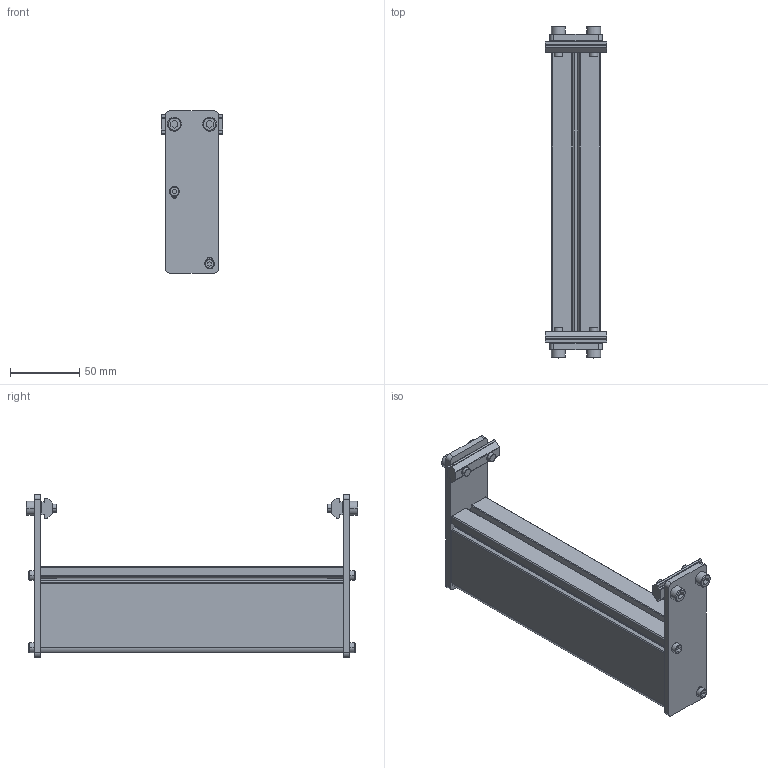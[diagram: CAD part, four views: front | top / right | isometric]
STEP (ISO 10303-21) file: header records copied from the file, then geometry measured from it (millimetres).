
FILE_DESCRIPTION((''),'2;1');
FILE_NAME('350974-08_ASM','2023-03-22T',('jenni.wallner'),(''),'PRO/ENGINEER BY PARAMETRIC TECHNOLOGY CORPORATION, 2012420','PRO/ENGINEER BY PARAMETRIC TECHNOLOGY CORPORATION, 2012420','');
FILE_SCHEMA(('CONFIG_CONTROL_DESIGN'));
Length unit declared in the file: inch
Products named in the file (6): 350979-00858; 350978; 200830M; 920616M; 920416M; 350974-08_ASM
Assembly tree (13 placements, depth 2):
  350974-08_ASM
    350979-00858
    350978  x2
    200830M  x2
    920616M  x4
    920416M  x4
Bounding box: 44.45 x 239.03 x 116.98 mm (x, y, z)
Volume: 223000.6 mm3; surface area: 141529.6 mm2
Topology: 13 solids, 17 shells, 344 faces, 874 edges, 572 vertices
Faces by surface type: plane 168, cylinder 144, cone 32
Entity records: 6060 total; most frequent: DIRECTION 1090, CARTESIAN_POINT 1027, ORIENTED_EDGE 984, EDGE_CURVE 496, AXIS2_PLACEMENT_3D 391, VERTEX_POINT 328, VECTOR 308, LINE 308
